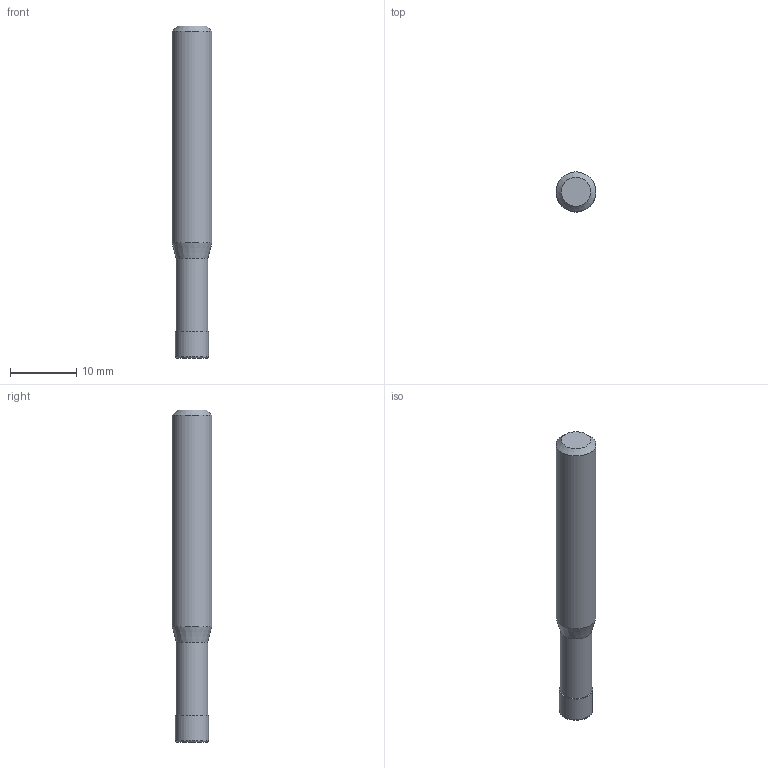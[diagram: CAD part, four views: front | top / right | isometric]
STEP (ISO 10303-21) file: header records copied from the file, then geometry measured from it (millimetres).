
FILE_DESCRIPTION((''),'2;1');
FILE_NAME('C:\Users\nsx150\AppData\Local\Temp\Mastercam 2021\8MCJJJGUOI\TEMP.step','2022-10-12T10:46:24',(''),(''),'STEP Write','Mastercam 2021 ... CNC Software, Inc.','');
FILE_SCHEMA(('AUTOMOTIVE_DESIGN'));
Length unit declared in the file: millimetre
Products named in the file (1): None
Bounding box: 6 x 6 x 50 mm (x, y, z)
Volume: 1244.7 mm3; surface area: 957.8 mm2
Topology: 2 solids, 2 shells, 10 faces, 14 edges, 8 vertices
Faces by surface type: plane 4, cylinder 3, cone 2, torus 1
Full cylindrical faces by diameter (mm): 4.75 x1, 5 x1, 6 x1
Entity records: 232 total; most frequent: DIRECTION 40, CARTESIAN_POINT 28, AXIS2_PLACEMENT_3D 20, ORIENTED_EDGE 16, EDGE_LOOP 16, STYLED_ITEM 13, ADVANCED_FACE 10, FACE_BOUND 10
